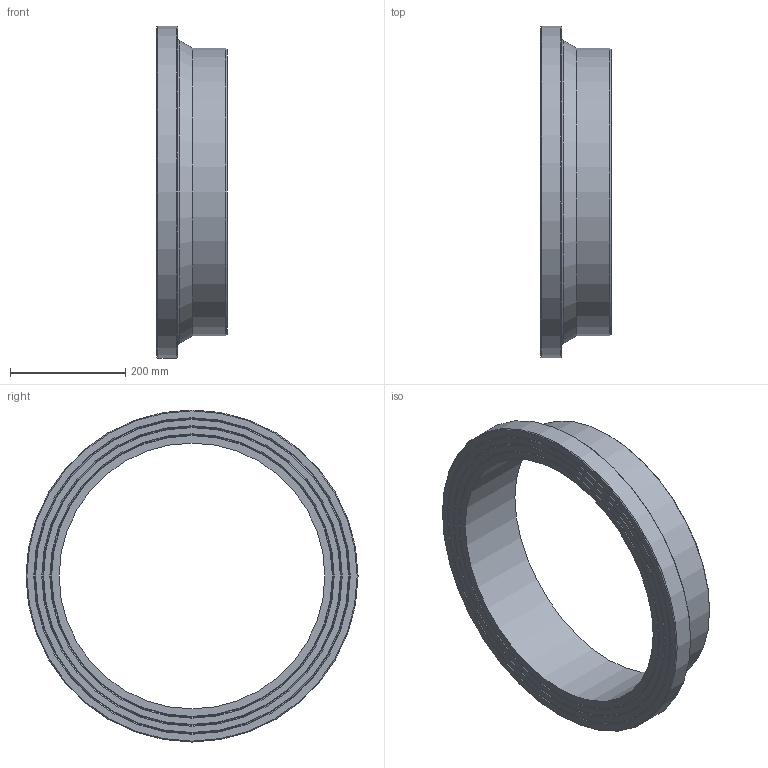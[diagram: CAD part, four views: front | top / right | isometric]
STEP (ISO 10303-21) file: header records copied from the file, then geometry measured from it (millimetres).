
FILE_DESCRIPTION(/* description */ ('Unknown'),/* implementation_level */ '2;1');
FILE_NAME(/* name */ 'CCP500A',/* time_stamp */ '2022-04-05T10:42:05+02:00',/* author */ ('Unknown'),/* organization */ ('Unknown'),/* preprocessor_version */ 'ST-DEVELOPER v18.1',/* originating_system */ 'Solid Edge',/* authorisation */ 'Unknown');
FILE_SCHEMA (('AUTOMOTIVE_DESIGN {1 0 10303 214 3 1 1}'));
Length unit declared in the file: millimetre
Products named in the file (1): CCP500A
Bounding box: 122 x 577 x 577 mm (x, y, z)
Volume: 6163835.7 mm3; surface area: 545726.3 mm2
Topology: 1 solids, 1 shells, 20 faces, 35 edges, 21 vertices
Faces by surface type: cone 10, plane 6, cylinder 3, torus 1
Full cylindrical faces by diameter (mm): 461.8 x1, 500 x1, 577 x1
Entity records: 438 total; most frequent: DIRECTION 82, CARTESIAN_POINT 61, AXIS2_PLACEMENT_3D 41, ORIENTED_EDGE 40, EDGE_LOOP 40, FACE_BOUND 40, EDGE_CURVE 20, VERTEX_POINT 20
